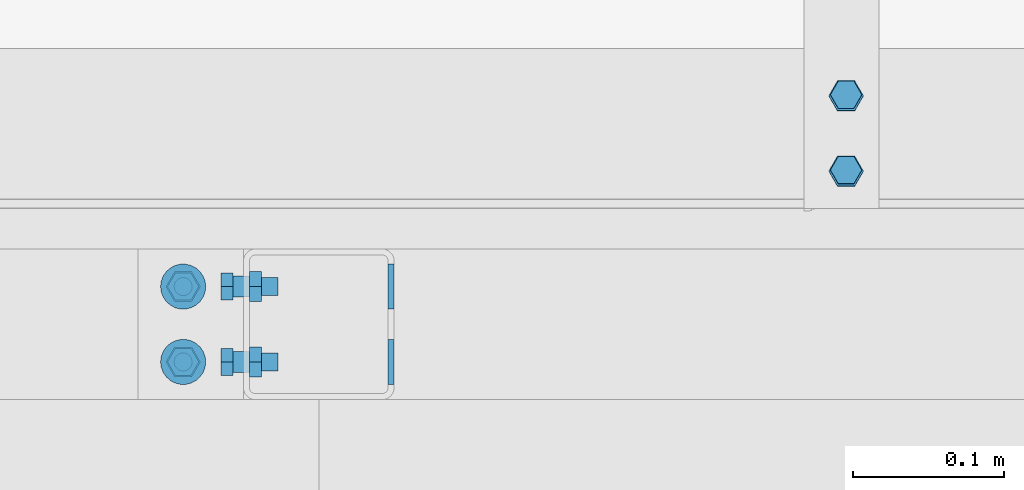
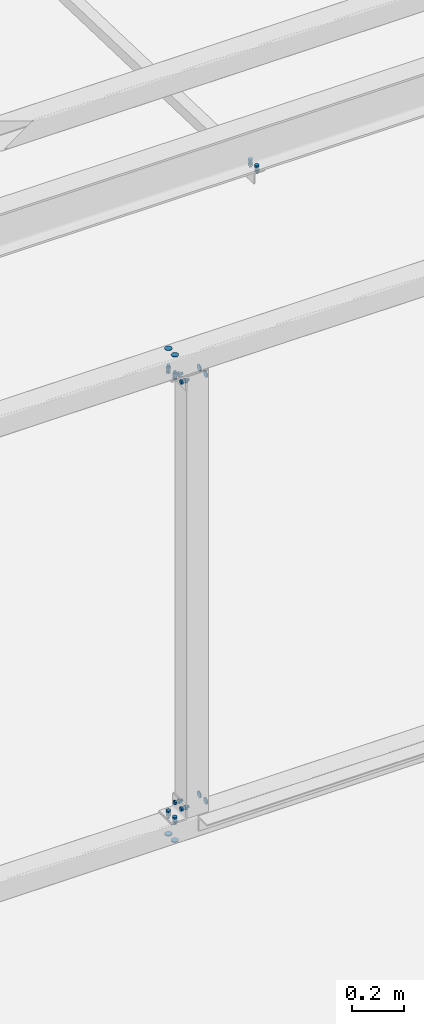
# One storey, part 274 of 362: 9 mechanical fasteners.
"""IFC2X3 building model written with IfcOpenShell, lengths in millimetres."""

from ifc_helpers import new_model, si_unit, frame, origin_with_axes, origin_2d_with_axis, place, context, subcontext, project, spatial, polyline, circle, outline, extrude, source, transform, mapped, material, type_object, element, save


model = new_model("IFC2X3")

# Units and contexts
model_context = context("Model", 3, precision=1e-05, world=origin_with_axes())
body_context = subcontext(model_context, "Body", "Model", "MODEL_VIEW")
ifc_project = project(units=[si_unit("LENGTHUNIT", "METRE", prefix="MILLI"), si_unit("AREAUNIT", "SQUARE_METRE"), si_unit("VOLUMEUNIT", "CUBIC_METRE"), si_unit("MASSUNIT", "GRAM", prefix="KILO"), si_unit("TIMEUNIT", "SECOND"), si_unit("PLANEANGLEUNIT", "RADIAN"), si_unit("SOLIDANGLEUNIT", "STERADIAN"), si_unit("THERMODYNAMICTEMPERATUREUNIT", "DEGREE_CELSIUS"), si_unit("LUMINOUSINTENSITYUNIT", "LUMEN")], contexts=[model_context])

# Site, building, storey
site_placement = place(None, origin_with_axes())
site = spatial("IfcSite", under=ifc_project, at=site_placement, Name="Undefined", CompositionType="ELEMENT")
building_placement = place(site_placement, origin_with_axes())
building = spatial("IfcBuilding", under=site, at=building_placement, Name="Undefined", CompositionType="ELEMENT")
storey_placement = place(building_placement, origin_with_axes())
storey = spatial("IfcBuildingStorey", under=building, at=storey_placement, Name="Undefined", CompositionType="ELEMENT", Elevation=0.0)

# Mechanical fasteners
ifc_material_1 = material(Name="6.8")
mechanical_fastener_type = type_object("IfcMechanicalFastenerType", Name="Bolt assembly")
shared_shape_1 = source(origin_with_axes(), body_context, "Body", "SweptSolid", [
    extrude(circle(Radius=15.0, at=origin_2d_with_axis()), frame((0.0, 0.0, 0.0), z_axis=(0.0, 1.0, 0.0), x_axis=(1.0, 0.0, 0.0)), (0.0, 0.0, 1.0), 4.1),
])
mechanical_fastener_1_placement = place(storey_placement, frame((31280.000000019, -130.000008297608, 5040.0), z_axis=(0.0, 1.0, 0.0), x_axis=(0.0, 0.0, -1.0)))
element("IfcMechanicalFastener", 1, at=mechanical_fastener_1_placement, inside=storey, type_object=mechanical_fastener_type, material=ifc_material_1, Name="Bolt assembly", NominalDiameter=30.0, NominalLength=4.0, context=body_context, shape_type="MappedRepresentation", body=[
    mapped(shared_shape_1, transform((0.0, 0.0, -25.0))),
    mapped(shared_shape_1, transform((0.0, 0.0, 25.0))),
])
mechanical_fastener_2_placement = place(storey_placement, frame((31280.000000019, -130.000008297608, 7060.0), z_axis=(0.0, -1.0, 0.0), x_axis=(0.0, 0.0, 1.0)))
element("IfcMechanicalFastener", 2, at=mechanical_fastener_2_placement, inside=storey, type_object=mechanical_fastener_type, material=ifc_material_1, Name="Bolt assembly", NominalDiameter=30.0, NominalLength=4.0, context=body_context, shape_type="MappedRepresentation", body=[
    mapped(shared_shape_1, transform((0.0, 0.0, 25.0))),
    mapped(shared_shape_1, transform((0.0, 0.0, -25.0))),
])
ifc_material_2 = material(Name="8.8-SB-ZINGUE")
shared_shape_2 = source(origin_with_axes(), body_context, "Body", "SweptSolid", [
    extrude(circle(Radius=7.0, at=origin_2d_with_axis()), frame((0.0, -0.101674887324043, 0.0), z_axis=(0.0, 1.0, 0.0), x_axis=(1.0, 0.0, 0.0)), (0.0, 0.0, 1.0), 4.1),
    extrude(circle(Radius=7.0, at=origin_2d_with_axis()), frame((0.0, -6.90167467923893, 0.0), z_axis=(0.0, 1.0, 0.0), x_axis=(1.0, 0.0, 0.0)), (0.0, 0.0, 1.0), 7.0),
    extrude(outline(polyline([(10.39230484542, 0.0), (5.19615242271, 9.00000000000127), (-5.19615242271, 9.00000000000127), (-10.39230484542, 0.0), (-5.19615242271, -9.00000000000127), (5.19615242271, -9.00000000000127), (10.39230484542, 0.0)])), frame((0.0, -14.9216746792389, 0.0), z_axis=(0.0, 1.0, 0.0), x_axis=(1.0, 0.0, 0.0)), (0.0, 0.0, 1.0), 7.92),
    extrude(circle(Radius=6.0, at=origin_2d_with_axis()), frame((0.0, -7.00167467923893, 0.0), z_axis=(0.0, 1.0, 0.0), x_axis=(1.0, 0.0, 0.0)), (0.0, 0.0, 1.0), 30.0),
    extrude(outline(polyline([(11.5008173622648, 0.0), (5.7504086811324, 9.96000000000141), (-5.7504086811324, 9.96000000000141), (-11.5008173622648, 0.0), (-5.7504086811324, -9.96000000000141), (5.7504086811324, -9.96000000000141), (11.5008173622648, 0.0)])), frame((0.0, 3.99832511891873, 0.0), z_axis=(0.0, 1.0, 0.0), x_axis=(1.0, 0.0, 0.0)), (0.0, 0.0, 1.0), 7.92),
])
mechanical_fastener_3_placement = place(storey_placement, frame((31180.0016749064, -130.000006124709, 5040.00000004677), z_axis=(0.0, -1.0, 0.0), x_axis=(5.58310000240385e-05, -3.00000033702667e-09, -0.99999999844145)))
element("IfcMechanicalFastener", 3, at=mechanical_fastener_3_placement, inside=storey, type_object=mechanical_fastener_type, material=ifc_material_2, Name="Bolt assembly", NominalDiameter=12.0, NominalLength=30.0, context=body_context, shape_type="MappedRepresentation", body=[
    mapped(shared_shape_2, transform((0.0, 0.0, -25.0))),
    mapped(shared_shape_2, transform((0.0, 0.0, 25.0))),
])
mechanical_fastener_4_placement = place(storey_placement, frame((31180.0016749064, -130.000006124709, 7059.99999995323), z_axis=(0.0, 1.0, 0.0), x_axis=(5.58310000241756e-05, -2.99999998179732e-09, 0.99999999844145)))
element("IfcMechanicalFastener", 4, at=mechanical_fastener_4_placement, inside=storey, type_object=mechanical_fastener_type, material=ifc_material_2, Name="Bolt assembly", NominalDiameter=12.0, NominalLength=30.0, context=body_context, shape_type="MappedRepresentation", body=[
    mapped(shared_shape_2, transform((0.0, 0.0, 25.0))),
    mapped(shared_shape_2, transform((0.0, 0.0, -25.0))),
])
shared_shape_3 = source(origin_with_axes(), body_context, "Body", "SweptSolid", [
    extrude(circle(Radius=15.0, at=origin_2d_with_axis()), frame((0.0, -3.99999923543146, 0.0), z_axis=(0.0, 1.0, 0.0), x_axis=(1.0, 0.0, 0.0)), (0.0, 0.0, 1.0), 4.1),
])
mechanical_fastener_5_placement = place(storey_placement, frame((31140.000000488, -130.000008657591, 4900.0), z_axis=(0.0, 1.0, 0.0), x_axis=(1.0, 0.0, 0.0)))
element("IfcMechanicalFastener", 5, at=mechanical_fastener_5_placement, inside=storey, type_object=mechanical_fastener_type, material=ifc_material_1, Name="Bolt assembly", NominalDiameter=30.0, NominalLength=4.0, context=body_context, shape_type="MappedRepresentation", body=[
    mapped(shared_shape_3, transform((0.0, 0.0, -25.0))),
    mapped(shared_shape_3, transform((0.0, 0.0, 25.0))),
])
mechanical_fastener_6_placement = place(storey_placement, frame((31140.000000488, -130.000008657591, 7200.0), z_axis=(0.0, -1.0, 0.0), x_axis=(1.0, 0.0, 0.0)))
element("IfcMechanicalFastener", 6, at=mechanical_fastener_6_placement, inside=storey, type_object=mechanical_fastener_type, material=ifc_material_1, Name="Bolt assembly", NominalDiameter=30.0, NominalLength=4.0, context=body_context, shape_type="MappedRepresentation", body=[
    mapped(shared_shape_3, transform((0.0, 0.0, 25.0))),
    mapped(shared_shape_3, transform((0.0, 0.0, -25.0))),
])
shared_shape_4 = source(origin_with_axes(), body_context, "Body", "SweptSolid", [
    extrude(circle(Radius=7.0, at=origin_2d_with_axis()), frame((0.0, -0.100011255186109, 0.0), z_axis=(0.0, 1.0, 0.0), x_axis=(1.0, 0.0, 0.0)), (0.0, 0.0, 1.0), 4.1),
    extrude(circle(Radius=7.0, at=origin_2d_with_axis()), frame((0.0, -6.9, 0.0), z_axis=(0.0, 1.0, 0.0), x_axis=(1.0, 0.0, 0.0)), (0.0, 0.0, 1.0), 7.0),
    extrude(outline(polyline([(10.39230484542, 0.0), (5.19615242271, 9.00000000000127), (-5.19615242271, 9.00000000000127), (-10.39230484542, 0.0), (-5.19615242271, -9.00000000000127), (5.19615242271, -9.00000000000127), (10.39230484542, 0.0)])), frame((0.0, -14.92, 0.0), z_axis=(0.0, 1.0, 0.0), x_axis=(1.0, 0.0, 0.0)), (0.0, 0.0, 1.0), 7.92),
    extrude(circle(Radius=6.0, at=origin_2d_with_axis()), frame((0.0, -7.0, 0.0), z_axis=(0.0, 1.0, 0.0), x_axis=(1.0, 0.0, 0.0)), (0.0, 0.0, 1.0), 30.0),
    extrude(outline(polyline([(11.5008173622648, 0.0), (5.7504086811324, 9.96000000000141), (-5.7504086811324, 9.96000000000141), (-11.5008173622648, 0.0), (-5.7504086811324, -9.96000000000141), (5.7504086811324, -9.96000000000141), (11.5008173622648, 0.0)])), frame((0.0, 4.00000005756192, 0.0), z_axis=(0.0, 1.0, 0.0), x_axis=(1.0, 0.0, 0.0)), (0.0, 0.0, 1.0), 7.92),
])
mechanical_fastener_7_placement = place(storey_placement, frame((31139.999999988, -130.000007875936, 5000.0), z_axis=(0.0, 1.0, 0.0), x_axis=(1.0, 0.0, 0.0)))
element("IfcMechanicalFastener", 7, at=mechanical_fastener_7_placement, inside=storey, type_object=mechanical_fastener_type, material=ifc_material_2, Name="Bolt assembly", NominalDiameter=12.0, NominalLength=30.0, context=body_context, shape_type="MappedRepresentation", body=[
    mapped(shared_shape_4, transform((0.0, 0.0, -25.0))),
    mapped(shared_shape_4, transform((0.0, 0.0, 25.0))),
])
mechanical_fastener_8_placement = place(storey_placement, frame((31139.999999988, -130.000007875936, 7100.0), z_axis=(0.0, -1.0, 0.0), x_axis=(1.0, 0.0, 0.0)))
element("IfcMechanicalFastener", 8, at=mechanical_fastener_8_placement, inside=storey, type_object=mechanical_fastener_type, material=ifc_material_2, Name="Bolt assembly", NominalDiameter=12.0, NominalLength=30.0, context=body_context, shape_type="MappedRepresentation", body=[
    mapped(shared_shape_4, transform((0.0, 0.0, 25.0))),
    mapped(shared_shape_4, transform((0.0, 0.0, -25.0))),
])
shared_shape_5 = source(origin_with_axes(), body_context, "Body", "SweptSolid", [
    extrude(circle(Radius=7.0, at=origin_2d_with_axis()), frame((0.0, -8.39498354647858, 0.0), z_axis=(0.0, 1.0, 0.0), x_axis=(1.0, 0.0, 0.0)), (0.0, 0.0, 1.0), 8.5),
    extrude(circle(Radius=7.0, at=origin_2d_with_axis()), frame((0.0, -0.100011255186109, 0.0), z_axis=(0.0, 1.0, 0.0), x_axis=(1.0, 0.0, 0.0)), (0.0, 0.0, 1.0), 5.1),
    extrude(outline(polyline([(10.39230484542, 0.0), (5.19615242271, 9.00000000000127), (-5.19615242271, 9.00000000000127), (-10.39230484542, 0.0), (-5.19615242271, -9.00000000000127), (5.19615242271, -9.00000000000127), (10.39230484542, 0.0)])), frame((0.0, -16.4149835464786, 0.0), z_axis=(0.0, 1.0, 0.0), x_axis=(1.0, 0.0, 0.0)), (0.0, 0.0, 1.0), 7.92),
    extrude(circle(Radius=6.0, at=origin_2d_with_axis()), frame((0.0, -8.49498354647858, 0.0), z_axis=(0.0, 1.0, 0.0), x_axis=(1.0, 0.0, 0.0)), (0.0, 0.0, 1.0), 30.0),
    extrude(outline(polyline([(11.5008173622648, 0.0), (5.7504086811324, 9.96000000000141), (-5.7504086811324, 9.96000000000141), (-11.5008173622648, 0.0), (-5.7504086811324, -9.96000000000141), (5.7504086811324, -9.96000000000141), (11.5008173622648, 0.0)])), frame((0.0, 5.0, 0.0), z_axis=(0.0, 1.0, 0.0), x_axis=(1.0, 0.0, 0.0)), (0.0, 0.0, 1.0), 7.92),
])
mechanical_fastener_9_placement = place(storey_placement, frame((31580.0000126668, -3.14090513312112, 7850.00687397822), z_axis=(0.0, -0.999506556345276, 0.031410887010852), x_axis=(-1.0, 0.0, 0.0)))
element("IfcMechanicalFastener", 9, at=mechanical_fastener_9_placement, inside=storey, type_object=mechanical_fastener_type, material=ifc_material_2, Name="Bolt assembly", NominalDiameter=12.0, NominalLength=30.0, context=body_context, shape_type="MappedRepresentation", body=[
    mapped(shared_shape_5, transform((0.0, 0.0, -25.0))),
    mapped(shared_shape_5, transform((0.0, 0.0, 25.0))),
])

save(model, "model.ifc")
